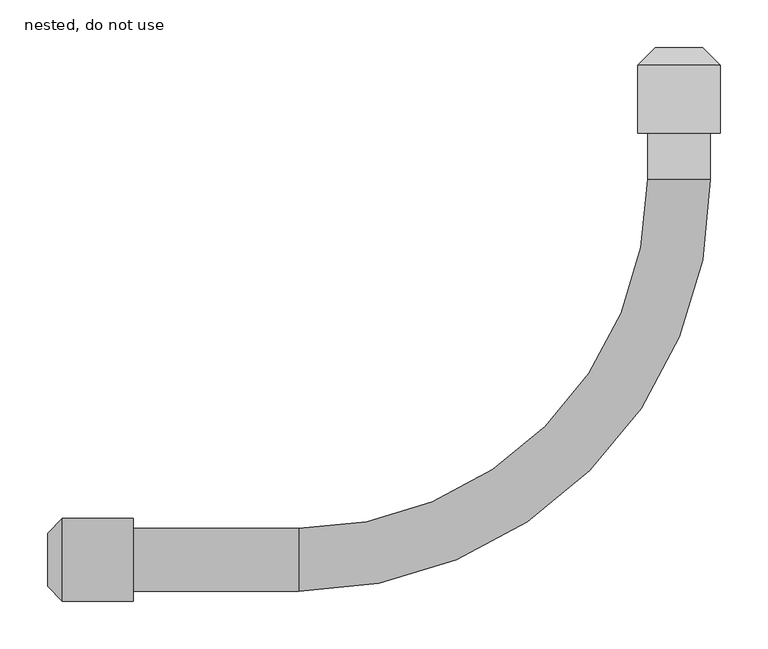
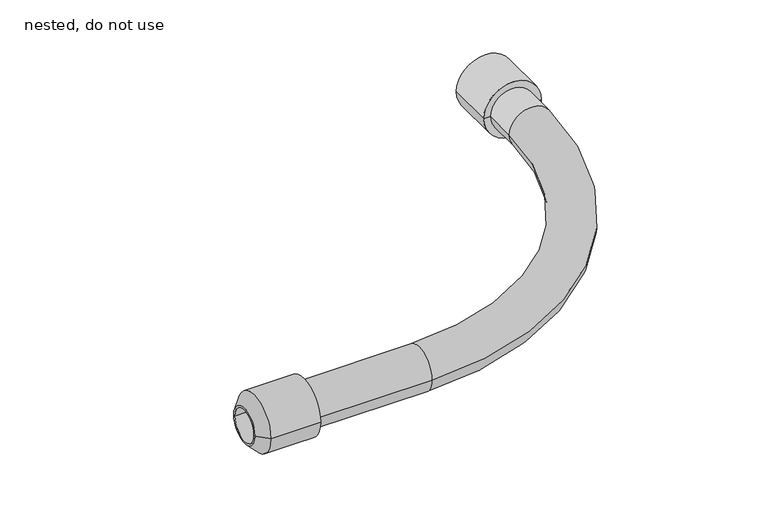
"""IFC4 building model written with IfcOpenShell, lengths in millimetres: pipe segment geometry, NLRS_52_PIF_UN_Vacurain Flex slang_SH_Dyka : nested, do not use."""

from ifc_helpers import new_model, si_unit, point, frame, origin, place, context, project, spatial, polyline, circle_curve, ellipse_curve, trimmed, source, transform, mapped, element, save
from ifc_brep_helpers import plane_surface, cylinder_surface, revolved_surface, advanced_brep


def nested_do_not_use_892fd5c0(model_context):
    return source(origin(), model_context, "Body", "AdvancedBrep", [
        advanced_brep(
        [(-574.0, -533.0, 0.0), (-574.0, -467.0, 0.0), (-400.0, -533.0, 0.0), (-400.0, -467.0, 0.0), (-33.0, -100.0, 0.0), (33.0, -100.0, 0.0), (33.0, -51.0, 0.0), (-33.0, -51.0, 0.0)],
        [
            (0, 1, circle_curve(frame((-574.0, -500.0, 0.0), z_axis=(-1.0, 0.0, 0.0), x_axis=(0.0, 1.0, 0.0)), 33.0)),
            (1, 0, circle_curve(frame((-574.0, -500.0, 0.0), z_axis=(-1.0, 0.0, 0.0), x_axis=(0.0, 1.0, 0.0)), 33.0)),
            (0, 2),
            (2, 3, circle_curve(frame((-400.0, -500.0, 0.0), z_axis=(-1.0, 0.0, 0.0), x_axis=(0.0, 1.0, 0.0)), 33.0)),
            (3, 1),
            (3, 2, circle_curve(frame((-400.0, -500.0, 0.0), z_axis=(-1.0, 0.0, 0.0), x_axis=(0.0, 1.0, 0.0)), 33.0)),
            (4, 3, circle_curve(frame((-400.0, -100.0, 0.0), z_axis=(0.0, 0.0, -1.0), x_axis=(0.0, -1.0, 0.0)), 367.0)),
            (2, 5, circle_curve(frame((-400.0, -100.0, 0.0), z_axis=(0.0, 0.0, 1.0), x_axis=(0.0, -1.0, 0.0)), 433.0)),
            (5, 4, circle_curve(frame((0.0, -100.0, 0.0), z_axis=(0.0, -1.0, 0.0), x_axis=(-1.0, 0.0, 0.0)), 33.0)),
            (4, 5, circle_curve(frame((0.0, -100.0, 0.0), z_axis=(0.0, -1.0, 0.0), x_axis=(-1.0, 0.0, 0.0)), 33.0)),
            (6, 7, circle_curve(frame((0.0, -51.0, 0.0), z_axis=(0.0, 1.0, 0.0), x_axis=(-1.0, 0.0, 0.0)), 33.0)),
            (7, 6, circle_curve(frame((0.0, -51.0, 0.0), z_axis=(0.0, 1.0, 0.0), x_axis=(-1.0, 0.0, 0.0)), 33.0)),
            (5, 6),
            (7, 4),
        ],
        [
            plane_surface(frame((-574.0, -500.0, 0.0), z_axis=(-1.0, 0.0, 0.0), x_axis=(0.0, 0.0, 1.0))),
            cylinder_surface(frame((-574.0, -500.0, 0.0), z_axis=(-1.0, 0.0, 0.0), x_axis=(0.0, 1.0, 0.0)), 33.0),
            revolved_surface(trimmed(ellipse_curve(frame((-400.0, -500.0, 0.0), z_axis=(-1.0, 0.0, 0.0), x_axis=(0.0, 1.0, 0.0)), 33.0, 33.0), [point((-400.0, -533.0, 0.0))], [point((-400.0, -467.0, 0.0))], True, "CARTESIAN"), (-400.0, -100.0, 0.0), (0.0, 0.0, 1.0)),
            revolved_surface(trimmed(ellipse_curve(frame((-400.0, -500.0, 0.0), z_axis=(-1.0, 0.0, 0.0), x_axis=(0.0, 1.0, 0.0)), 33.0, 33.0), [point((-400.0, -467.0, 0.0))], [point((-400.0, -533.0, 0.0))], True, "CARTESIAN"), (-400.0, -100.0, 0.0), (0.0, 0.0, 1.0)),
            plane_surface(frame((0.0, -51.0, 0.0), z_axis=(0.0, 1.0, 0.0), x_axis=(0.0, 0.0, 1.0))),
            cylinder_surface(frame((0.0, -100.0, 0.0), z_axis=(0.0, -1.0, 0.0), x_axis=(-1.0, 0.0, 0.0)), 33.0),
        ],
        [
            (0, [[1, 2]]),
            (1, [[-1, 3, 4, 5]]),
            (1, [[-2, -5, 6, -3]]),
            (2, [[7, -4, 8, 9]]),
            (3, [[-8, -6, -7, 10]]),
            (4, [[11, 12]]),
            (5, [[-9, 13, -12, 14]]),
            (5, [[-10, -14, -11, -13]]),
        ],
    ),
        advanced_brep(
        [(-625.0, -525.0, 0.0), (-625.0, -475.0, 0.0), (-664.0, -475.0, 0.0), (-664.0, -525.0, 0.0), (-625.0, -500.0, 0.0), (-574.0, -543.5, 0.0), (-574.0, -456.5, 0.0), (-574.0, -500.0, 0.0), (-648.5, -543.5, 0.0), (-648.5, -456.5, 0.0), (-664.0, -528.0, 0.0), (-664.0, -472.0, 0.0)],
        [
            (0, 1, circle_curve(frame((-625.0, -500.0, 0.0), z_axis=(1.0, 0.0, 0.0), x_axis=(0.0, 1.0, 0.0)), 25.0)),
            (1, 2),
            (2, 3, circle_curve(frame((-664.0, -500.0, 0.0), z_axis=(-1.0, 0.0, 0.0), x_axis=(0.0, 1.0, 0.0)), 25.0)),
            (3, 0),
            (1, 0, circle_curve(frame((-625.0, -500.0, 0.0), z_axis=(1.0, 0.0, 0.0), x_axis=(0.0, 1.0, 0.0)), 25.0)),
            (3, 2, circle_curve(frame((-664.0, -500.0, 0.0), z_axis=(-1.0, 0.0, 0.0), x_axis=(0.0, 1.0, 0.0)), 25.0)),
            (4, 1),
            (0, 4),
            (5, 6, circle_curve(frame((-574.0, -500.0, 0.0), z_axis=(1.0, 0.0, 0.0), x_axis=(0.0, 1.0, 0.0)), 43.5)),
            (6, 7),
            (7, 5),
            (6, 5, circle_curve(frame((-574.0, -500.0, 0.0), z_axis=(1.0, 0.0, 0.0), x_axis=(0.0, 1.0, 0.0)), 43.5)),
            (8, 9, circle_curve(frame((-648.5, -500.0, 0.0), z_axis=(1.0, 0.0, 0.0), x_axis=(0.0, 1.0, 0.0)), 43.5)),
            (9, 6),
            (5, 8),
            (9, 8, circle_curve(frame((-648.5, -500.0, 0.0), z_axis=(1.0, 0.0, 0.0), x_axis=(0.0, 1.0, 0.0)), 43.5)),
            (10, 11, circle_curve(frame((-664.0, -500.0, 0.0), z_axis=(1.0, 0.0, 0.0), x_axis=(0.0, 1.0, 0.0)), 28.0)),
            (11, 9),
            (8, 10),
            (11, 10, circle_curve(frame((-664.0, -500.0, 0.0), z_axis=(1.0, 0.0, 0.0), x_axis=(0.0, 1.0, 0.0)), 28.0)),
            (2, 11),
            (10, 3),
        ],
        [
            revolved_surface(polyline([(-664.0, -475.0, 0.0), (-625.0, -475.0, 0.0)]), (-666.0, -500.0, 0.0), (-1.0, 0.0, 0.0)),
            plane_surface(frame((-625.0, -500.0, 0.0), z_axis=(-1.0, 0.0, 0.0), x_axis=(0.0, 1.0, 0.0))),
            plane_surface(frame((-574.0, -500.0, 0.0), z_axis=(1.0, 0.0, 0.0), x_axis=(0.0, 1.0, 0.0))),
            cylinder_surface(frame((-666.0, -500.0, 0.0), z_axis=(-1.0, 0.0, 0.0), x_axis=(0.0, 1.0, 0.0)), 43.5),
            revolved_surface(polyline([(-648.5, -456.5, 0.0), (-664.0, -472.0, 0.0)]), (-666.0, -500.0, 0.0), (-1.0, 0.0, 0.0)),
            plane_surface(frame((-664.0, -500.0, 0.0), z_axis=(-1.0, 0.0, 0.0), x_axis=(0.0, 1.0, 0.0))),
        ],
        [
            (0, [[1, 2, 3, 4]]),
            (0, [[5, -4, 6, -2]]),
            (1, [[7, -1, 8]]),
            (1, [[-8, -5, -7]]),
            (2, [[9, 10, 11]]),
            (2, [[12, -11, -10]]),
            (3, [[13, 14, -9, 15]]),
            (3, [[16, -15, -12, -14]]),
            (4, [[17, 18, -13, 19]]),
            (4, [[20, -19, -16, -18]]),
            (5, [[-3, 21, -17, 22]]),
            (5, [[-6, -22, -20, -21]]),
        ],
    ),
        advanced_brep(
        [(43.5, -51.0, 0.0), (-43.5, -51.0, 0.0), (-43.5, 20.5, 0.0), (43.5, 20.5, 0.0), (0.0, -51.0, 0.0), (25.0, 0.0, 0.0), (-25.0, 0.0, 0.0), (0.0, 0.0, 0.0), (25.0, 39.0, 0.0), (-25.0, 39.0, 0.0)],
        [
            (0, 1, circle_curve(frame((0.0, -51.0, 0.0), z_axis=(0.0, 1.0, 0.0), x_axis=(-1.0, 0.0, 0.0)), 43.5)),
            (1, 2),
            (2, 3, circle_curve(frame((0.0, 20.5, 0.0), z_axis=(0.0, -1.0, 0.0), x_axis=(-1.0, 0.0, 0.0)), 43.5)),
            (3, 0),
            (1, 0, circle_curve(frame((0.0, -51.0, 0.0), z_axis=(0.0, 1.0, 0.0), x_axis=(-1.0, 0.0, 0.0)), 43.5)),
            (3, 2, circle_curve(frame((0.0, 20.5, 0.0), z_axis=(0.0, -1.0, 0.0), x_axis=(-1.0, 0.0, 0.0)), 43.5)),
            (4, 1),
            (0, 4),
            (5, 6, circle_curve(frame((0.0, 0.0, 0.0), z_axis=(0.0, 1.0, 0.0), x_axis=(-1.0, 0.0, 0.0)), 25.0)),
            (6, 7),
            (7, 5),
            (6, 5, circle_curve(frame((0.0, 0.0, 0.0), z_axis=(0.0, 1.0, 0.0), x_axis=(-1.0, 0.0, 0.0)), 25.0)),
            (8, 9, circle_curve(frame((0.0, 39.0, 0.0), z_axis=(0.0, 1.0, 0.0), x_axis=(-1.0, 0.0, 0.0)), 25.0)),
            (9, 6),
            (5, 8),
            (9, 8, circle_curve(frame((0.0, 39.0, 0.0), z_axis=(0.0, 1.0, 0.0), x_axis=(-1.0, 0.0, 0.0)), 25.0)),
            (2, 9),
            (8, 3),
        ],
        [
            cylinder_surface(frame((0.0, 2019.0, 0.0), z_axis=(0.0, -1.0, 0.0), x_axis=(-1.0, 0.0, 0.0)), 43.5),
            plane_surface(frame((0.0, -51.0, 0.0), z_axis=(0.0, -1.0, 0.0), x_axis=(-1.0, 0.0, 0.0))),
            plane_surface(frame((0.0, 0.0, 0.0), z_axis=(0.0, 1.0, 0.0), x_axis=(-1.0, 0.0, 0.0))),
            revolved_surface(polyline([(-25.0, 0.0, 0.0), (-25.0, 39.0, 0.0)]), (0.0, 2019.0, 0.0), (0.0, -1.0, 0.0)),
            revolved_surface(polyline([(-25.0, 39.0, 0.0), (-43.5, 20.5, 0.0)]), (0.0, 2019.0, 0.0), (0.0, -1.0, 0.0)),
        ],
        [
            (0, [[1, 2, 3, 4]]),
            (0, [[5, -4, 6, -2]]),
            (1, [[7, -1, 8]]),
            (1, [[-8, -5, -7]]),
            (2, [[9, 10, 11]]),
            (2, [[12, -11, -10]]),
            (3, [[13, 14, -9, 15]]),
            (3, [[16, -15, -12, -14]]),
            (4, [[-3, 17, -13, 18]]),
            (4, [[-6, -18, -16, -17]]),
        ],
    ),
    ])


if __name__ == "__main__":
    model = new_model("IFC4")
    model_context = context("Model", 3, world=origin())
    ifc_project = project(units=[si_unit("LENGTHUNIT", "METRE", prefix="MILLI")], contexts=[model_context])
    site = spatial("IfcSite", under=ifc_project)
    building = spatial("IfcBuilding", under=site)
    placement = place(None, origin())
    nested_do_not_use_shape = nested_do_not_use_892fd5c0(model_context)
    element("IfcPipeSegment", 1, ObjectType="NLRS_52_PIF_UN_Vacurain Flex slang_SH_Dyka : nested, do not use", at=placement, inside=building, context=model_context, shape_type="MappedRepresentation", body=[
        mapped(nested_do_not_use_shape, transform((0.0, 0.0, 0.0), x_axis=(1.0, 0.0, 0.0), y_axis=(0.0, 1.0, 0.0), z_axis=(0.0, 0.0, 1.0))),
    ])
    save(model, "model.ifc")
